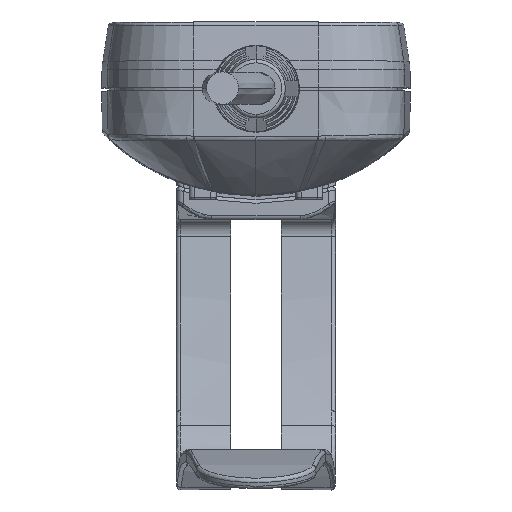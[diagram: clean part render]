
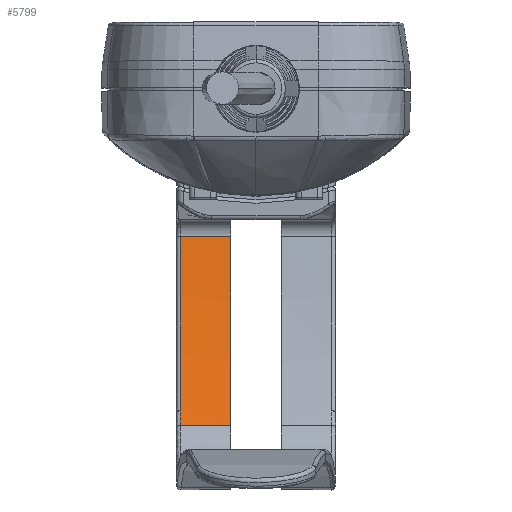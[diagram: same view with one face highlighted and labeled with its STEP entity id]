
A CAD part, top view. The second image highlights one B-rep face of the part: STEP entity #5799.
In plain terms, the highlighted cylindrical face has radius 95.886 mm (diameter 191.772 mm), a partial arc.
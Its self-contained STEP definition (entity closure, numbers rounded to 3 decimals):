
#3793=CARTESIAN_POINT('',(-10.5,-9.7,38.894));
#3794=DIRECTION('',(1.,0.,0.));
#3795=DIRECTION('',(0.,-0.417,-0.909));
#3796=AXIS2_PLACEMENT_3D('',#3793,#3794,#3795);
#3798=CARTESIAN_POINT('',(-10.5,-9.7,38.894));
#3799=DIRECTION('',(-1.,0.,0.));
#3800=DIRECTION('',(0.,-0.144,-0.99));
#3801=AXIS2_PLACEMENT_3D('',#3798,#3799,#3800);
#3818=DIRECTION('',(-1.,0.,0.));
#3819=VECTOR('',#3818,7.);
#3820=CARTESIAN_POINT('',(-3.5,-23.488,-55.996));
#3821=LINE('',#3820,#3819);
#4807=DIRECTION('',(1.,0.,0.));
#4808=VECTOR('',#4807,7.);
#4809=CARTESIAN_POINT('',(-10.5,-49.708,
-48.247));
#4810=LINE('',#4809,#4808);
#4888=CARTESIAN_POINT('',(-3.5,-9.7,38.894));
#4889=DIRECTION('',(1.,0.,0.));
#4890=DIRECTION('',(0.,-0.417,-0.909));
#4891=AXIS2_PLACEMENT_3D('',#4888,#4889,#4890);
#5292=CARTESIAN_POINT('',(-10.5,-49.708,
-48.247));
#5293=CARTESIAN_POINT('',(-10.5,-47.654,
-49.161));
#5294=VERTEX_POINT('',#5292);
#5295=VERTEX_POINT('',#5293);
#5296=CARTESIAN_POINT('',(-10.5,-23.488,-55.996));
#5297=VERTEX_POINT('',#5296);
#5300=CARTESIAN_POINT('',(-3.5,-23.488,-55.996));
#5301=VERTEX_POINT('',#5300);
#5432=CARTESIAN_POINT('',(-3.5,-49.708,-48.247));
#5433=VERTEX_POINT('',#5432);
#5783=CARTESIAN_POINT('',(-10.64,-9.7,38.894));
#5784=DIRECTION('',(1.,0.,0.));
#5785=DIRECTION('',(0.,-1.,0.));
#5786=AXIS2_PLACEMENT_3D('',#5783,#5784,#5785);
#5787=CYLINDRICAL_SURFACE('',#5786,95.886);
#5788=ORIENTED_EDGE('',*,*,#5773,.T.);
#5790=ORIENTED_EDGE('',*,*,#5789,.F.);
#5792=ORIENTED_EDGE('',*,*,#5791,.F.);
#5794=ORIENTED_EDGE('',*,*,#5793,.F.);
#5796=ORIENTED_EDGE('',*,*,#5795,.F.);
#5797=EDGE_LOOP('',(#5788,#5790,#5792,#5794,#5796));
#5798=FACE_OUTER_BOUND('',#5797,.F.);
#5799=ADVANCED_FACE('',(#5798),#5787,.F.);
#3797=CIRCLE('',#3796,95.886);
#3802=CIRCLE('',#3801,95.886);
#4892=CIRCLE('',#4891,95.886);
#5773=EDGE_CURVE('',#5294,#5295,#3797,.T.);
#5789=EDGE_CURVE('',#5297,#5295,#3802,.T.);
#5791=EDGE_CURVE('',#5301,#5297,#3821,.T.);
#5793=EDGE_CURVE('',#5433,#5301,#4892,.T.);
#5795=EDGE_CURVE('',#5294,#5433,#4810,.T.);
